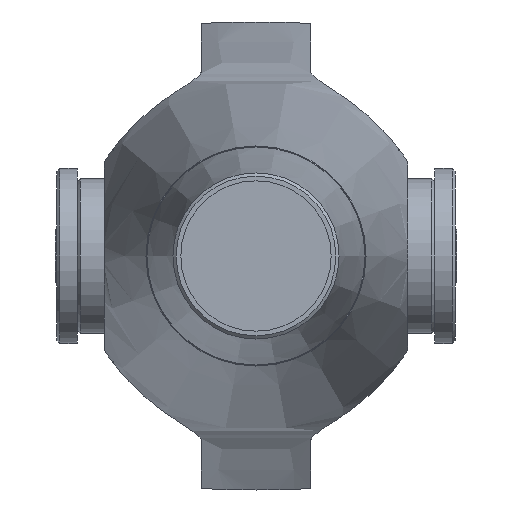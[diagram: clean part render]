
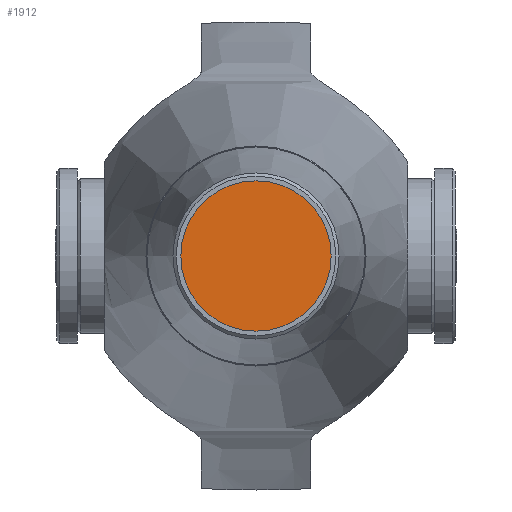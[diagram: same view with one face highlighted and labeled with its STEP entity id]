
A CAD part, left-side view. The second image highlights one B-rep face of the part: STEP entity #1912.
In plain terms, the highlighted planar face has unit normal (-1, 0, 0).
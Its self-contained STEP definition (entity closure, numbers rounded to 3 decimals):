
#119=PLANE('',#2072);
#177=FACE_OUTER_BOUND('',#287,.T.);
#287=EDGE_LOOP('',(#1262,#1263));
#638=CIRCLE('',#2070,51.5);
#639=CIRCLE('',#2071,51.5);
#759=VERTEX_POINT('',#2899);
#760=VERTEX_POINT('',#2901);
#960=EDGE_CURVE('',#760,#759,#638,.T.);
#961=EDGE_CURVE('',#759,#760,#639,.T.);
#1262=ORIENTED_EDGE('',*,*,#960,.T.);
#1263=ORIENTED_EDGE('',*,*,#961,.T.);
#1912=ADVANCED_FACE('',(#177),#119,.T.);
#2070=AXIS2_PLACEMENT_3D('',#2902,#2342,#2343);
#2071=AXIS2_PLACEMENT_3D('',#2903,#2344,#2345);
#2072=AXIS2_PLACEMENT_3D('',#2904,#2346,#2347);
#2342=DIRECTION('center_axis',(-1.,0.,0.));
#2343=DIRECTION('ref_axis',(0.,0.,-1.));
#2344=DIRECTION('center_axis',(-1.,0.,0.));
#2345=DIRECTION('ref_axis',(0.,0.,-1.));
#2346=DIRECTION('center_axis',(-1.,0.,0.));
#2347=DIRECTION('ref_axis',(0.,0.,-1.));
#2899=CARTESIAN_POINT('',(-1039.,-51.5,0.));
#2901=CARTESIAN_POINT('',(-1039.,51.5,0.));
#2902=CARTESIAN_POINT('Origin',(-1039.,0.,0.));
#2903=CARTESIAN_POINT('Origin',(-1039.,0.,0.));
#2904=CARTESIAN_POINT('Origin',(-1039.,0.,0.));
